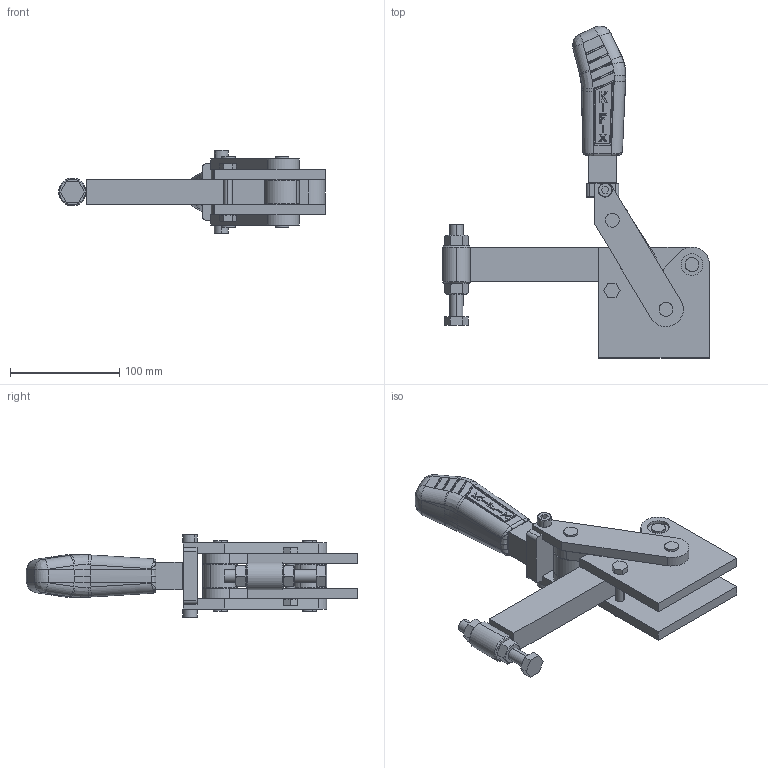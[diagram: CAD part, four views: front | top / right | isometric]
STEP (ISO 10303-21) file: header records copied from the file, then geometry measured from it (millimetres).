
FILE_DESCRIPTION (( 'STEP AP203' ), '1' );
FILE_NAME ('KF-875.STEP', '2014-08-13T21:25:34', ( 'Ricardo' ), ( '' ), 'SwSTEP 2.0', 'SolidWorks 2013', '' );
FILE_SCHEMA (( 'CONFIG_CONTROL_DESIGN' ));
Length unit declared in the file: millimetre
Products named in the file (19): KF-875; 12.50039; 01.20015; 11.50002; 01.10121; 12.50091; 15.10068; 20.20006; 03.15019; 12.50022; 05.20040; 11.50004; 08.10055; PSB-M12; 16.20082; 02.11059_Direito; 07.60203; 16.20083; 02.11059_Esquerdo
Assembly tree (25 placements, depth 3):
  KF-875
    02.11059_Direito
    02.11059_Esquerdo
    01.20015
    01.10121  x2
    15.10068
    03.15019
    05.20040  x2
    08.10055  x2
    16.20082  x2
    16.20083  x2
    12.50039
    11.50002
    12.50091  x2
    PSB-M12
      20.20006
      12.50022
      11.50004  x2
    07.60203
Bounding box: 244.4 x 304.08 x 76.5 mm (x, y, z)
Volume: 687727.2 mm3; surface area: 188021.2 mm2
Topology: 24 solids, 24 shells, 892 faces, 2265 edges, 1443 vertices
Faces by surface type: plane 324, cylinder 317, bspline 183, cone 62, torus 6
Entity records: 30963 total; most frequent: CARTESIAN_POINT 11173, ORIENTED_EDGE 4148, DIRECTION 3012, EDGE_CURVE 2074, VERTEX_POINT 1325, VECTOR 1022, LINE 1022, AXIS2_PLACEMENT_3D 995
